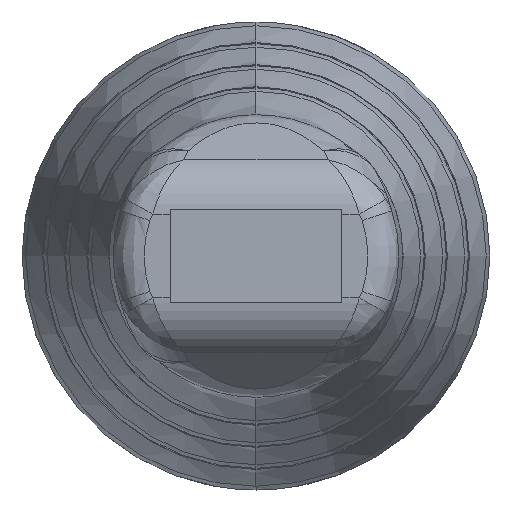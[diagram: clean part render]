
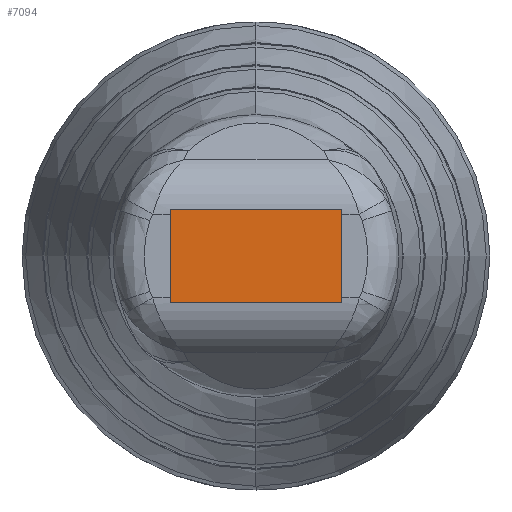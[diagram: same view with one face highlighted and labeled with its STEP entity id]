
A CAD part, left-side view. The second image highlights one B-rep face of the part: STEP entity #7094.
In plain terms, the highlighted planar face has unit normal (-1, 0, 0).
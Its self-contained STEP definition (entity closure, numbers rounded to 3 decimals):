
#431=CARTESIAN_POINT('',(78.0,-5.5,3.));
#432=VERTEX_POINT('',#431);
#439=CARTESIAN_POINT('',(78.0,-5.5,-3.));
#440=VERTEX_POINT('',#439);
#441=CARTESIAN_POINT('',(78.0,-5.5,-3.));
#442=DIRECTION('',(0.0,0.0,1.0));
#443=VECTOR('',#442,6.0);
#444=LINE('',#441,#443);
#445=EDGE_CURVE('',#440,#432,#444,.T.);
#487=CARTESIAN_POINT('',(78.0,5.5,-3.));
#488=VERTEX_POINT('',#487);
#489=CARTESIAN_POINT('',(78.0,5.5,-3.));
#490=DIRECTION('',(0.0,-1.0,0.0));
#491=VECTOR('',#490,11.0);
#492=LINE('',#489,#491);
#493=EDGE_CURVE('',#488,#440,#492,.T.);
#517=CARTESIAN_POINT('',(78.0,5.5,3.));
#518=VERTEX_POINT('',#517);
#525=CARTESIAN_POINT('',(78.0,-5.5,3.));
#526=DIRECTION('',(0.0,1.0,0.0));
#527=VECTOR('',#526,11.0);
#528=LINE('',#525,#527);
#529=EDGE_CURVE('',#432,#518,#528,.T.);
#565=CARTESIAN_POINT('',(78.0,5.5,3.));
#566=DIRECTION('',(0.0,0.0,-1.0));
#567=VECTOR('',#566,6.0);
#568=LINE('',#565,#567);
#569=EDGE_CURVE('',#518,#488,#568,.T.);
#7083=CARTESIAN_POINT('',(78.0,-5.5,-2.2));
#7084=DIRECTION('',(-1.0,0.0,0.0));
#7085=DIRECTION('',(0.0,0.0,1.0));
#7086=AXIS2_PLACEMENT_3D('',#7083,#7084,#7085);
#7087=PLANE('',#7086);
#7088=ORIENTED_EDGE('',*,*,#493,.T.);
#7089=ORIENTED_EDGE('',*,*,#445,.T.);
#7090=ORIENTED_EDGE('',*,*,#529,.T.);
#7091=ORIENTED_EDGE('',*,*,#569,.T.);
#7092=EDGE_LOOP('',(#7088,#7089,#7090,#7091));
#7093=FACE_OUTER_BOUND('',#7092,.T.);
#7094=ADVANCED_FACE('',(#7093),#7087,.T.);
